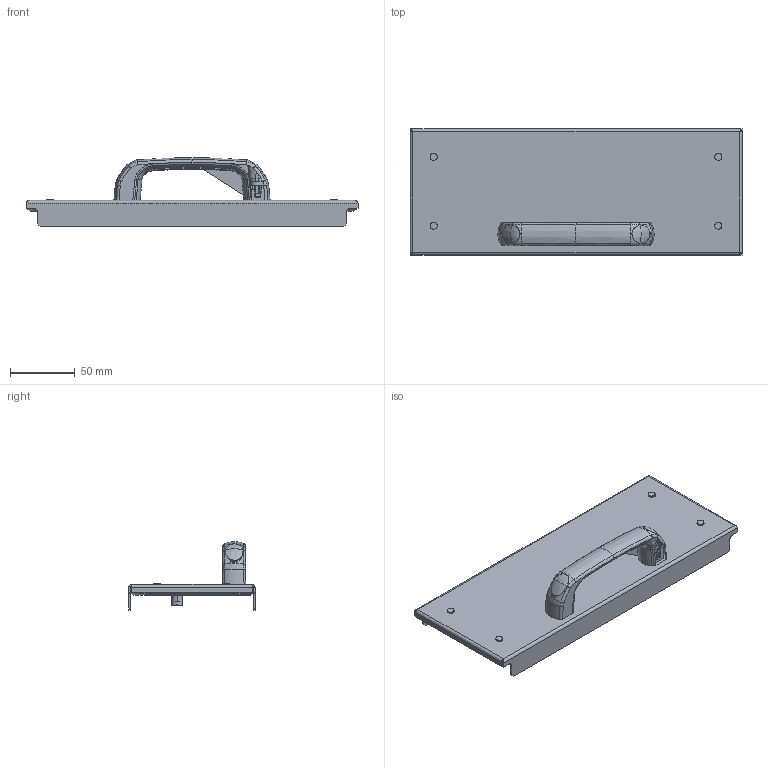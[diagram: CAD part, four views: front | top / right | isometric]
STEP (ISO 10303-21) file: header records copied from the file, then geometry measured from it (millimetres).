
FILE_DESCRIPTION(('CAx-IF Rec.Pracs.---Model Styling and Organization---1.2---2011-12-15','CAx-IF Rec.Pracs.---Geometric and Assembly Validation Properties---4.1---2014-06-16','CAx-IF Rec.Pracs.---PMI Polyline Presentation---2.0---2013-05-24'),'2;1');
FILE_NAME('R5M2W2M2BF.stp','2021-05-05T12:09:03+03:00',(''),(''),'STEP Interface 4.4 by CT CoreTechnologie','3D_Evolution4.4 by CT CoreTechnologie','');
FILE_SCHEMA(('AUTOMOTIVE_DESIGN { 1 0 10303 214 1 1 1 1 }'));
Length unit declared in the file: millimetre
Products named in the file (10): R5M2W2M2BF; 4.444.001; PR.DT477.100.02; PR.DT477.100.01; RB.1215.01.00.0 ÑÁ_-03; RB.1215.01.01.0_-03; PF 7x14 RAMmcc 2.0_1x2_; AC00C061_AC00C061; Ì6õ12-A5100231_straight; 5-GOST 11371-78 (DIN 125) PA 6.6_5-GOST 11371-78 (DIN 125) PA 6.6
Assembly tree (13 placements, depth 3):
  R5M2W2M2BF
    4.444.001
      PR.DT477.100.02  x2
      PR.DT477.100.01
    RB.1215.01.00.0 ÑÁ_-03
      RB.1215.01.01.0_-03
      PF 7x14 RAMmcc 2.0_1x2_
      AC00C061_AC00C061
      Ì6õ12-A5100231_straight
    5-GOST 11371-78 (DIN 125) PA 6.6_5-GOST 11371-78 (DIN 125) PA 6.6  x4
Bounding box: 255.5 x 97 x 52.94 mm (x, y, z)
Surface area: 106678.2 mm2 (no closed solid volume)
Topology: 0 solids, 13 shells, 1181 faces, 2848 edges, 1671 vertices
Faces by surface type: bspline 725, plane 306, cylinder 150
Entity records: 54538 total; most frequent: CARTESIAN_POINT 31111, ORIENTED_EDGE 5138, DIRECTION 4447, EDGE_CURVE 2569, AXIS2_PLACEMENT_3D 1737, VERTEX_POINT 1522, CIRCLE 1337, EDGE_LOOP 1111
